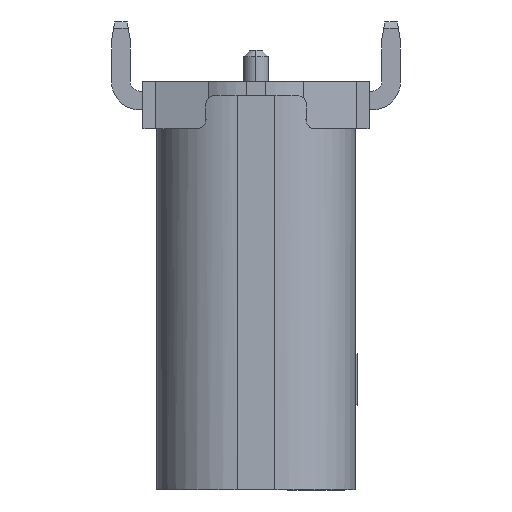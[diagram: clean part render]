
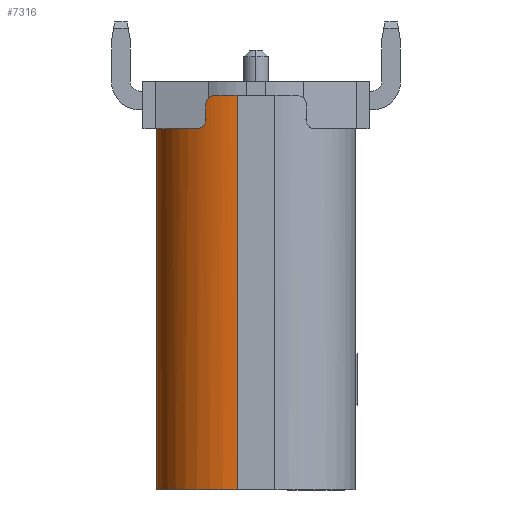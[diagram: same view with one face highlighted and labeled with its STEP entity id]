
A CAD part, left-side view. The second image highlights one B-rep face of the part: STEP entity #7316.
In plain terms, the highlighted cylindrical face has radius 1.28 mm (diameter 2.56 mm), a partial arc.
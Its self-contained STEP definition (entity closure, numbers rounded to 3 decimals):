
#452 = VERTEX_POINT ( 'NONE', #10763 ) ;
#563 = ORIENTED_EDGE ( 'NONE', *, *, #2017, .T. ) ;
#1049 = ORIENTED_EDGE ( 'NONE', *, *, #20330, .F. ) ;
#1181 = DIRECTION ( 'NONE',  ( 0., 0., 1. ) ) ;
#1259 = CARTESIAN_POINT ( 'NONE',  ( -0.132, 6.094, 17.88 ) ) ;
#1430 = CARTESIAN_POINT ( 'NONE',  ( -0.132, 6.094, 17.64 ) ) ;
#2017 = EDGE_CURVE ( 'NONE', #7171, #21899, #8727, .T. ) ;
#2151 = CARTESIAN_POINT ( 'NONE',  ( -0.172, 5.99, 18.03 ) ) ;
#2762 = AXIS2_PLACEMENT_3D ( 'NONE', #5561, #9347, #25825 ) ;
#2917 = CARTESIAN_POINT ( 'NONE',  ( -0.099, 6.166, 17.517 ) ) ;
#3192 = CARTESIAN_POINT ( 'NONE',  ( -0.128, 6.105, 17.588 ) ) ;
#3668 = B_SPLINE_CURVE_WITH_KNOTS ( 'NONE', 3,
 ( #22455, #10434, #8129, #12588, #4195, #4333, #5824, #18670, #2151, #18274 ),
 .UNSPECIFIED., .F., .F.,
 ( 4, 2, 2, 2, 4 ),
 ( 0., 0.25, 0.375, 0.5, 1. ),
 .UNSPECIFIED. ) ;
#3736 = CARTESIAN_POINT ( 'NONE',  ( 1.046, 6.874, 17.5 ) ) ;
#3831 = EDGE_CURVE ( 'NONE', #7171, #15046, #15271, .T. ) ;
#3837 = EDGE_CURVE ( 'NONE', #8257, #23592, #3668, .T. ) ;
#3978 = B_SPLINE_CURVE_WITH_KNOTS ( 'NONE', 3,
 ( #11728, #4963, #19982, #13747, #2917, #26171, #15909, #19835, #21729, #5232, #3192, #21454, #1430, #7255 ),
 .UNSPECIFIED., .F., .F.,
 ( 4, 2, 2, 2, 2, 2, 4 ),
 ( 0., 0.25, 0.375, 0.438, 0.5, 0.75, 1. ),
 .UNSPECIFIED. ) ;
#3984 = VERTEX_POINT ( 'NONE', #18530 ) ;
#4031 = ORIENTED_EDGE ( 'NONE', *, *, #13644, .T. ) ;
#4195 = CARTESIAN_POINT ( 'NONE',  ( -0.14, 6.074, 17.957 ) ) ;
#4276 = VECTOR ( 'NONE', #1181, 1000. ) ;
#4333 = CARTESIAN_POINT ( 'NONE',  ( -0.144, 6.064, 17.973 ) ) ;
#4963 = CARTESIAN_POINT ( 'NONE',  ( -0.074, 6.214, 17.5 ) ) ;
#5232 = CARTESIAN_POINT ( 'NONE',  ( -0.123, 6.115, 17.565 ) ) ;
#5561 = CARTESIAN_POINT ( 'NONE',  ( 1.046, 5.594, 17.5 ) ) ;
#5824 = CARTESIAN_POINT ( 'NONE',  ( -0.146, 6.06, 17.979 ) ) ;
#6125 = DIRECTION ( 'NONE',  ( 0., 0., 1. ) ) ;
#6514 = ORIENTED_EDGE ( 'NONE', *, *, #15550, .F. ) ;
#7171 = VERTEX_POINT ( 'NONE', #3736 ) ;
#7176 = DIRECTION ( 'NONE',  ( -0.471, 0.882, 0. ) ) ;
#7255 = CARTESIAN_POINT ( 'NONE',  ( -0.132, 6.094, 17.65 ) ) ;
#7316 = ADVANCED_FACE ( 'NONE', ( #16312 ), #20113, .T. ) ;
#7461 = VECTOR ( 'NONE', #13157, 1000. ) ;
#7512 = LINE ( 'NONE', #1259, #20269 ) ;
#7547 = DIRECTION ( 'NONE',  ( -1., 0., 0. ) ) ;
#8129 = CARTESIAN_POINT ( 'NONE',  ( -0.134, 6.09, 17.922 ) ) ;
#8257 = VERTEX_POINT ( 'NONE', #25916 ) ;
#8694 = AXIS2_PLACEMENT_3D ( 'NONE', #13002, #25686, #7176 ) ;
#8727 = LINE ( 'NONE', #21021, #7461 ) ;
#9120 = ORIENTED_EDGE ( 'NONE', *, *, #3837, .F. ) ;
#9273 = EDGE_CURVE ( 'NONE', #15046, #12348, #21427, .T. ) ;
#9347 = DIRECTION ( 'NONE',  ( 0., 0., 1. ) ) ;
#9607 = ORIENTED_EDGE ( 'NONE', *, *, #20885, .T. ) ;
#9678 = DIRECTION ( 'NONE',  ( 0., 0., -1. ) ) ;
#9704 = CARTESIAN_POINT ( 'NONE',  ( 1.046, 5.594, 17.5 ) ) ;
#10434 = CARTESIAN_POINT ( 'NONE',  ( -0.132, 6.094, 17.902 ) ) ;
#10763 = CARTESIAN_POINT ( 'NONE',  ( -0.234, 5.594, 11.75 ) ) ;
#11016 = CARTESIAN_POINT ( 'NONE',  ( 1.046, 5.594, 11.75 ) ) ;
#11265 = CARTESIAN_POINT ( 'NONE',  ( 0.444, 6.723, 17.5 ) ) ;
#11481 = CARTESIAN_POINT ( 'NONE',  ( -0.234, 5.594, 11.75 ) ) ;
#11557 = ORIENTED_EDGE ( 'NONE', *, *, #16386, .F. ) ;
#11598 = CARTESIAN_POINT ( 'NONE',  ( 1.046, 5.594, 18.155 ) ) ;
#11715 = ORIENTED_EDGE ( 'NONE', *, *, #3831, .F. ) ;
#11726 = DIRECTION ( 'NONE',  ( 0., 0., 1. ) ) ;
#11728 = CARTESIAN_POINT ( 'NONE',  ( -0.066, 6.228, 17.5 ) ) ;
#12348 = VERTEX_POINT ( 'NONE', #11265 ) ;
#12435 = EDGE_LOOP ( 'NONE', ( #15627, #11715, #563, #24006, #9607, #1049, #9120, #4031, #11557, #6514 ) ) ;
#12499 = CIRCLE ( 'NONE', #25852, 1.28 ) ;
#12588 = CARTESIAN_POINT ( 'NONE',  ( -0.139, 6.079, 17.949 ) ) ;
#13002 = CARTESIAN_POINT ( 'NONE',  ( 1.046, 5.594, 17.5 ) ) ;
#13157 = DIRECTION ( 'NONE',  ( 0., 0., -1. ) ) ;
#13644 = EDGE_CURVE ( 'NONE', #8257, #14429, #7512, .T. ) ;
#13747 = CARTESIAN_POINT ( 'NONE',  ( -0.095, 6.174, 17.513 ) ) ;
#13983 = EDGE_CURVE ( 'NONE', #452, #21899, #12499, .T. ) ;
#14429 = VERTEX_POINT ( 'NONE', #15546 ) ;
#14785 = CARTESIAN_POINT ( 'NONE',  ( 1.046, 6.874, 11.75 ) ) ;
#15046 = VERTEX_POINT ( 'NONE', #16856 ) ;
#15271 = CIRCLE ( 'NONE', #2762, 1.28 ) ;
#15546 = CARTESIAN_POINT ( 'NONE',  ( -0.132, 6.094, 17.65 ) ) ;
#15550 = EDGE_CURVE ( 'NONE', #12348, #3984, #18171, .T. ) ;
#15627 = ORIENTED_EDGE ( 'NONE', *, *, #9273, .F. ) ;
#15772 = DIRECTION ( 'NONE',  ( -0.035, 0.999, 0. ) ) ;
#15894 = CARTESIAN_POINT ( 'NONE',  ( -0.183, 5.951, 18.03 ) ) ;
#15909 = CARTESIAN_POINT ( 'NONE',  ( -0.107, 6.15, 17.529 ) ) ;
#16312 = FACE_OUTER_BOUND ( 'NONE', #12435, .T. ) ;
#16386 = EDGE_CURVE ( 'NONE', #3984, #14429, #3978, .T. ) ;
#16856 = CARTESIAN_POINT ( 'NONE',  ( 1.001, 6.873, 17.5 ) ) ;
#17516 = CARTESIAN_POINT ( 'NONE',  ( 1.046, 5.594, 18.03 ) ) ;
#17593 = CARTESIAN_POINT ( 'NONE',  ( -0.234, 5.594, 18.03 ) ) ;
#18171 = CIRCLE ( 'NONE', #8694, 1.28 ) ;
#18274 = CARTESIAN_POINT ( 'NONE',  ( -0.183, 5.951, 18.03 ) ) ;
#18530 = CARTESIAN_POINT ( 'NONE',  ( -0.066, 6.228, 17.5 ) ) ;
#18670 = CARTESIAN_POINT ( 'NONE',  ( -0.159, 6.027, 18.013 ) ) ;
#19508 = DIRECTION ( 'NONE',  ( -1., 0., 0. ) ) ;
#19789 = CIRCLE ( 'NONE', #26683, 1.28 ) ;
#19835 = CARTESIAN_POINT ( 'NONE',  ( -0.111, 6.142, 17.536 ) ) ;
#19845 = DIRECTION ( 'NONE',  ( 0., 0., -1. ) ) ;
#19982 = CARTESIAN_POINT ( 'NONE',  ( -0.082, 6.199, 17.502 ) ) ;
#20113 = CYLINDRICAL_SURFACE ( 'NONE', #26111, 1.28 ) ;
#20269 = VECTOR ( 'NONE', #9678, 1000. ) ;
#20330 = EDGE_CURVE ( 'NONE', #23592, #25292, #19789, .T. ) ;
#20574 = AXIS2_PLACEMENT_3D ( 'NONE', #9704, #11726, #15772 ) ;
#20885 = EDGE_CURVE ( 'NONE', #452, #25292, #25538, .T. ) ;
#21021 = CARTESIAN_POINT ( 'NONE',  ( 1.046, 6.874, 17.5 ) ) ;
#21427 = CIRCLE ( 'NONE', #20574, 1.28 ) ;
#21454 = CARTESIAN_POINT ( 'NONE',  ( -0.132, 6.095, 17.626 ) ) ;
#21729 = CARTESIAN_POINT ( 'NONE',  ( -0.112, 6.139, 17.538 ) ) ;
#21899 = VERTEX_POINT ( 'NONE', #14785 ) ;
#22455 = CARTESIAN_POINT ( 'NONE',  ( -0.132, 6.094, 17.88 ) ) ;
#23592 = VERTEX_POINT ( 'NONE', #15894 ) ;
#24006 = ORIENTED_EDGE ( 'NONE', *, *, #13983, .F. ) ;
#25292 = VERTEX_POINT ( 'NONE', #17593 ) ;
#25449 = DIRECTION ( 'NONE',  ( 0., 0., -1. ) ) ;
#25538 = LINE ( 'NONE', #11481, #4276 ) ;
#25686 = DIRECTION ( 'NONE',  ( 0., 0., 1. ) ) ;
#25745 = DIRECTION ( 'NONE',  ( -0.96, 0.279, 0. ) ) ;
#25825 = DIRECTION ( 'NONE',  ( 0., 1., 0. ) ) ;
#25852 = AXIS2_PLACEMENT_3D ( 'NONE', #11016, #25449, #19508 ) ;
#25916 = CARTESIAN_POINT ( 'NONE',  ( -0.132, 6.094, 17.88 ) ) ;
#26111 = AXIS2_PLACEMENT_3D ( 'NONE', #11598, #19845, #7547 ) ;
#26171 = CARTESIAN_POINT ( 'NONE',  ( -0.105, 6.154, 17.526 ) ) ;
#26683 = AXIS2_PLACEMENT_3D ( 'NONE', #17516, #6125, #25745 ) ;
